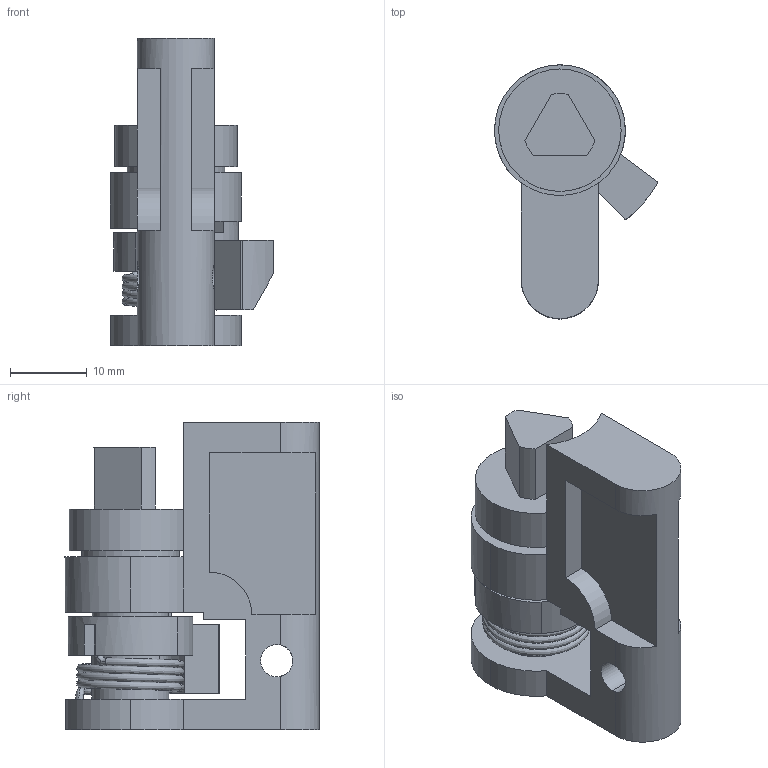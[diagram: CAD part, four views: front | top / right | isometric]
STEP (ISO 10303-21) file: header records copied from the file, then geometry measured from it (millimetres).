
FILE_DESCRIPTION (( 'STEP AP214' ), '1' );
FILE_NAME ('1C.WRS T9.STEP', '2012-06-05T13:32:10', ( 'lukasz' ), ( 'ATC' ), 'SwSTEP 2.0', 'SolidWorks 2010', '' );
FILE_SCHEMA (( 'AUTOMOTIVE_DESIGN' ));
Length unit declared in the file: millimetre
Products named in the file (6): 2.S001_T10; 1C.WRS.01.00.00_3gwintowanie; M6x10_Default; 1C.WRS.02.00.00_2szlifowanie; 1C.WRS.04.00.00_napiêta; 1C.WRS T9
Assembly tree (5 placements, depth 2):
  1C.WRS T9
    M6x10_Default
    1C.WRS.04.00.00_napiêta
    1C.WRS.02.00.00_2szlifowanie
    1C.WRS.01.00.00_3gwintowanie
    2.S001_T10
Bounding box: 21.18 x 33 x 40 mm (x, y, z)
Volume: 9516.8 mm3; surface area: 7786.6 mm2
Topology: 5 solids, 5 shells, 166 faces, 448 edges, 291 vertices
Faces by surface type: plane 73, cylinder 72, bspline 12, cone 9
Entity records: 9106 total; most frequent: CARTESIAN_POINT 4768, ORIENTED_EDGE 884, DIRECTION 839, EDGE_CURVE 442, AXIS2_PLACEMENT_3D 304, VERTEX_POINT 289, LINE 231, VECTOR 231
